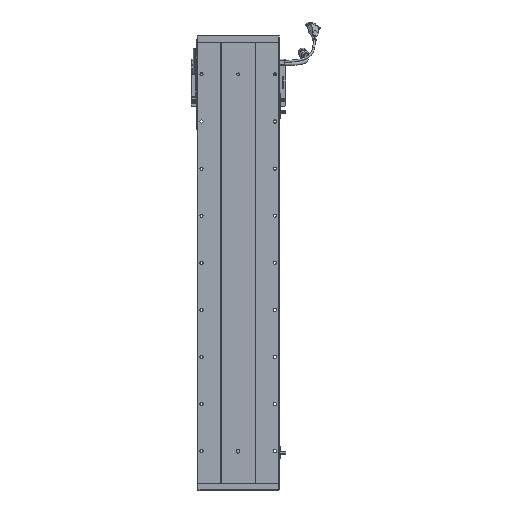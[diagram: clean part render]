
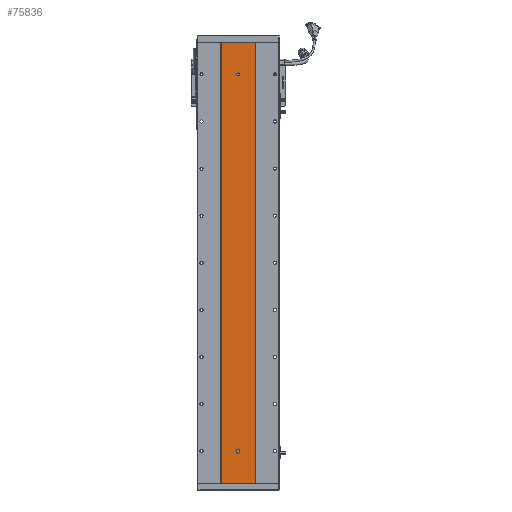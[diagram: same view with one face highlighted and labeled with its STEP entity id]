
A CAD part, front view. The second image highlights one B-rep face of the part: STEP entity #75836.
In plain terms, the highlighted planar face has unit normal (0, -1, 0).
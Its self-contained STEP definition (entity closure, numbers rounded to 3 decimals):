
#146 = LINE ( 'NONE', #46848, #53258 ) ;
#1102 = AXIS2_PLACEMENT_3D ( 'NONE', #43934, #5609, #19291 ) ;
#4612 = VERTEX_POINT ( 'NONE', #32544 ) ;
#5609 = DIRECTION ( 'NONE',  ( 0., -1., 0. ) ) ;
#5744 = CARTESIAN_POINT ( 'NONE',  ( 3280.529, 1415.701, 64. ) ) ;
#7246 = CARTESIAN_POINT ( 'NONE',  ( 3280.529, 1415.701, 865.5 ) ) ;
#7906 = CARTESIAN_POINT ( 'NONE',  ( 3244.748, 1415.701, 937. ) ) ;
#8510 = VERTEX_POINT ( 'NONE', #73227 ) ;
#8520 = DIRECTION ( 'NONE',  ( 0., 0., 1. ) ) ;
#9037 = EDGE_LOOP ( 'NONE', ( #22235, #29536 ) ) ;
#10774 = DIRECTION ( 'NONE',  ( 0., -1., 0. ) ) ;
#10942 = CARTESIAN_POINT ( 'NONE',  ( 3244.748, 1415.701, 937. ) ) ;
#12164 = VERTEX_POINT ( 'NONE', #32818 ) ;
#13320 = EDGE_CURVE ( 'NONE', #39632, #67690, #50760, .T. ) ;
#13812 = DIRECTION ( 'NONE',  ( 0., 0., 1. ) ) ;
#14120 = EDGE_CURVE ( 'NONE', #53639, #39632, #26529, .T. ) ;
#14224 = AXIS2_PLACEMENT_3D ( 'NONE', #36378, #81139, #62700 ) ;
#15249 = CARTESIAN_POINT ( 'NONE',  ( 3316.311, 1415.701, 937. ) ) ;
#15523 = ORIENTED_EDGE ( 'NONE', *, *, #13320, .T. ) ;
#15584 = ORIENTED_EDGE ( 'NONE', *, *, #29984, .F. ) ;
#15667 = ORIENTED_EDGE ( 'NONE', *, *, #55012, .F. ) ;
#15669 = DIRECTION ( 'NONE',  ( 0., -1., 0. ) ) ;
#16706 = VECTOR ( 'NONE', #64293, 1000. ) ;
#19291 = DIRECTION ( 'NONE',  ( 0., 0., -1. ) ) ;
#20730 = CIRCLE ( 'NONE', #70226, 3. ) ;
#22235 = ORIENTED_EDGE ( 'NONE', *, *, #54071, .F. ) ;
#23407 = VECTOR ( 'NONE', #65593, 1000. ) ;
#24963 = EDGE_CURVE ( 'NONE', #30815, #62080, #69038, .T. ) ;
#26158 = ORIENTED_EDGE ( 'NONE', *, *, #63645, .F. ) ;
#26529 = LINE ( 'NONE', #10942, #70602 ) ;
#27259 = LINE ( 'NONE', #71366, #28214 ) ;
#28214 = VECTOR ( 'NONE', #78564, 1000. ) ;
#29536 = ORIENTED_EDGE ( 'NONE', *, *, #77082, .F. ) ;
#29984 = EDGE_CURVE ( 'NONE', #8510, #67690, #72435, .T. ) ;
#30286 = CARTESIAN_POINT ( 'NONE',  ( 3277.529, 1415.701, 70. ) ) ;
#30815 = VERTEX_POINT ( 'NONE', #5744 ) ;
#31771 = VERTEX_POINT ( 'NONE', #62063 ) ;
#32544 = CARTESIAN_POINT ( 'NONE',  ( 3280.529, 1415.701, 871.5 ) ) ;
#32818 = CARTESIAN_POINT ( 'NONE',  ( 3277.529, 1415.701, 67. ) ) ;
#34307 = ORIENTED_EDGE ( 'NONE', *, *, #55469, .F. ) ;
#35203 = AXIS2_PLACEMENT_3D ( 'NONE', #46707, #15669, #60377 ) ;
#36378 = CARTESIAN_POINT ( 'NONE',  ( 3280.529, 1415.701, 868.5 ) ) ;
#37019 = CARTESIAN_POINT ( 'NONE',  ( 3283.529, 1415.701, 67. ) ) ;
#38974 = PLANE ( 'NONE',  #40430 ) ;
#39245 = CIRCLE ( 'NONE', #35203, 3. ) ;
#39522 = DIRECTION ( 'NONE',  ( 0., 1., 0. ) ) ;
#39632 = VERTEX_POINT ( 'NONE', #62234 ) ;
#40430 = AXIS2_PLACEMENT_3D ( 'NONE', #45693, #39522, #13812 ) ;
#41501 = ORIENTED_EDGE ( 'NONE', *, *, #24963, .F. ) ;
#43934 = CARTESIAN_POINT ( 'NONE',  ( 3280.529, 1415.701, 67. ) ) ;
#44722 = CARTESIAN_POINT ( 'NONE',  ( 3244.748, 1415.701, 0. ) ) ;
#45012 = VERTEX_POINT ( 'NONE', #7246 ) ;
#45338 = EDGE_LOOP ( 'NONE', ( #15523, #15584, #34307, #72641 ) ) ;
#45693 = CARTESIAN_POINT ( 'NONE',  ( 3244.748, 1415.701, 937. ) ) ;
#45919 = CARTESIAN_POINT ( 'NONE',  ( 3280.529, 1415.701, 868.5 ) ) ;
#46239 = DIRECTION ( 'NONE',  ( 1., 0., 0. ) ) ;
#46707 = CARTESIAN_POINT ( 'NONE',  ( 3280.529, 1415.701, 67. ) ) ;
#46848 = CARTESIAN_POINT ( 'NONE',  ( 3283.529, 1415.701, 70. ) ) ;
#47634 = CIRCLE ( 'NONE', #74002, 3. ) ;
#47902 = FACE_BOUND ( 'NONE', #9037, .T. ) ;
#50760 = LINE ( 'NONE', #44722, #16706 ) ;
#51526 = DIRECTION ( 'NONE',  ( 0., 0., -1. ) ) ;
#51848 = ORIENTED_EDGE ( 'NONE', *, *, #81050, .F. ) ;
#52419 = CARTESIAN_POINT ( 'NONE',  ( 3244.748, 1415.701, 937. ) ) ;
#53258 = VECTOR ( 'NONE', #8520, 1000. ) ;
#53639 = VERTEX_POINT ( 'NONE', #7906 ) ;
#54071 = EDGE_CURVE ( 'NONE', #45012, #4612, #20730, .T. ) ;
#55012 = EDGE_CURVE ( 'NONE', #31771, #76790, #47634, .T. ) ;
#55469 = EDGE_CURVE ( 'NONE', #53639, #8510, #55576, .T. ) ;
#55576 = LINE ( 'NONE', #52419, #64555 ) ;
#59894 = FACE_OUTER_BOUND ( 'NONE', #45338, .T. ) ;
#60377 = DIRECTION ( 'NONE',  ( 0., 0., -1. ) ) ;
#61917 = FACE_BOUND ( 'NONE', #79741, .T. ) ;
#61967 = DIRECTION ( 'NONE',  ( 0., 0., -1. ) ) ;
#62063 = CARTESIAN_POINT ( 'NONE',  ( 3283.529, 1415.701, 70. ) ) ;
#62080 = VERTEX_POINT ( 'NONE', #37019 ) ;
#62234 = CARTESIAN_POINT ( 'NONE',  ( 3244.748, 1415.701, 0. ) ) ;
#62700 = DIRECTION ( 'NONE',  ( 0., 0., -1. ) ) ;
#62813 = CIRCLE ( 'NONE', #14224, 3. ) ;
#63645 = EDGE_CURVE ( 'NONE', #76790, #12164, #27259, .T. ) ;
#64293 = DIRECTION ( 'NONE',  ( 1., 0., 0. ) ) ;
#64555 = VECTOR ( 'NONE', #46239, 1000. ) ;
#65593 = DIRECTION ( 'NONE',  ( 0., 0., -1. ) ) ;
#67690 = VERTEX_POINT ( 'NONE', #69056 ) ;
#67733 = DIRECTION ( 'NONE',  ( 0., 0., -1. ) ) ;
#69038 = CIRCLE ( 'NONE', #1102, 3. ) ;
#69056 = CARTESIAN_POINT ( 'NONE',  ( 3316.311, 1415.701, 0. ) ) ;
#70226 = AXIS2_PLACEMENT_3D ( 'NONE', #45919, #78003, #51526 ) ;
#70602 = VECTOR ( 'NONE', #67733, 1000. ) ;
#71366 = CARTESIAN_POINT ( 'NONE',  ( 3277.529, 1415.701, 70. ) ) ;
#72435 = LINE ( 'NONE', #15249, #23407 ) ;
#72641 = ORIENTED_EDGE ( 'NONE', *, *, #14120, .T. ) ;
#73227 = CARTESIAN_POINT ( 'NONE',  ( 3316.311, 1415.701, 937. ) ) ;
#73445 = EDGE_CURVE ( 'NONE', #62080, #31771, #146, .T. ) ;
#74002 = AXIS2_PLACEMENT_3D ( 'NONE', #74526, #10774, #61967 ) ;
#74526 = CARTESIAN_POINT ( 'NONE',  ( 3280.529, 1415.701, 70. ) ) ;
#75836 = ADVANCED_FACE ( 'NONE', ( #61917, #47902, #59894 ), #38974, .F. ) ;
#76790 = VERTEX_POINT ( 'NONE', #30286 ) ;
#77082 = EDGE_CURVE ( 'NONE', #4612, #45012, #62813, .T. ) ;
#78003 = DIRECTION ( 'NONE',  ( 0., -1., 0. ) ) ;
#78564 = DIRECTION ( 'NONE',  ( 0., 0., -1. ) ) ;
#79741 = EDGE_LOOP ( 'NONE', ( #51848, #26158, #15667, #82983, #41501 ) ) ;
#81050 = EDGE_CURVE ( 'NONE', #12164, #30815, #39245, .T. ) ;
#81139 = DIRECTION ( 'NONE',  ( 0., -1., 0. ) ) ;
#82983 = ORIENTED_EDGE ( 'NONE', *, *, #73445, .F. ) ;
